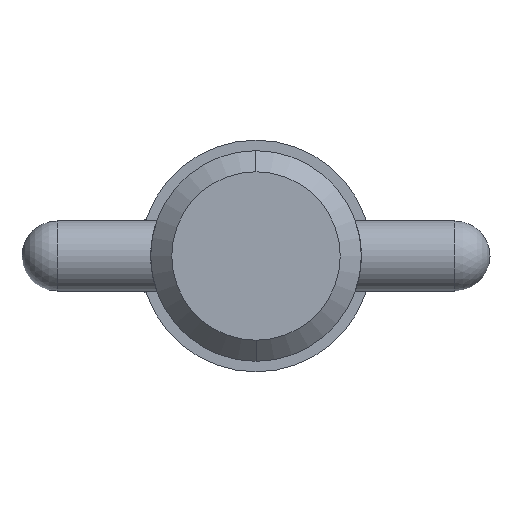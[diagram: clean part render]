
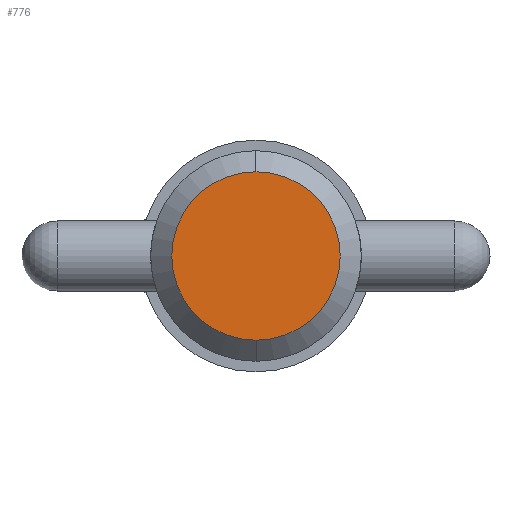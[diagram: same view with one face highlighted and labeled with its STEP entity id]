
A CAD part, left-side view. The second image highlights one B-rep face of the part: STEP entity #776.
In plain terms, the highlighted planar face has unit normal (-1, 0, 0).
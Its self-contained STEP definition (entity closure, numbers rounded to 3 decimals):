
#42 = CARTESIAN_POINT ( 'NONE',  ( 0., 0., 5.716 ) ) ;
#80 = DIRECTION ( 'NONE',  ( 1., 0., 0. ) ) ;
#139 = AXIS2_PLACEMENT_3D ( 'NONE', #822, #355, #601 ) ;
#173 = CARTESIAN_POINT ( 'NONE',  ( 0., 0., -5.716 ) ) ;
#214 = ORIENTED_EDGE ( 'NONE', *, *, #934, .F. ) ;
#226 = EDGE_CURVE ( 'NONE', #971, #543, #825, .T. ) ;
#261 = AXIS2_PLACEMENT_3D ( 'NONE', #1042, #80, #399 ) ;
#316 = EDGE_LOOP ( 'NONE', ( #214, #334 ) ) ;
#334 = ORIENTED_EDGE ( 'NONE', *, *, #226, .F. ) ;
#347 = AXIS2_PLACEMENT_3D ( 'NONE', #933, #439, #613 ) ;
#355 = DIRECTION ( 'NONE',  ( -1., 0., 0. ) ) ;
#399 = DIRECTION ( 'NONE',  ( 0., 0., -1. ) ) ;
#439 = DIRECTION ( 'NONE',  ( 1., 0., 0. ) ) ;
#543 = VERTEX_POINT ( 'NONE', #173 ) ;
#601 = DIRECTION ( 'NONE',  ( 0., 0., 1. ) ) ;
#613 = DIRECTION ( 'NONE',  ( 0., 0., -1. ) ) ;
#652 = FACE_OUTER_BOUND ( 'NONE', #316, .T. ) ;
#776 = ADVANCED_FACE ( 'NONE', ( #652 ), #898, .T. ) ;
#822 = CARTESIAN_POINT ( 'NONE',  ( 0., 0., 0. ) ) ;
#825 = CIRCLE ( 'NONE', #261, 5.716 ) ;
#898 = PLANE ( 'NONE',  #139 ) ;
#933 = CARTESIAN_POINT ( 'NONE',  ( 0., 0., 0. ) ) ;
#934 = EDGE_CURVE ( 'NONE', #543, #971, #973, .T. ) ;
#971 = VERTEX_POINT ( 'NONE', #42 ) ;
#973 = CIRCLE ( 'NONE', #347, 5.716 ) ;
#1042 = CARTESIAN_POINT ( 'NONE',  ( 0., 0., 0. ) ) ;
